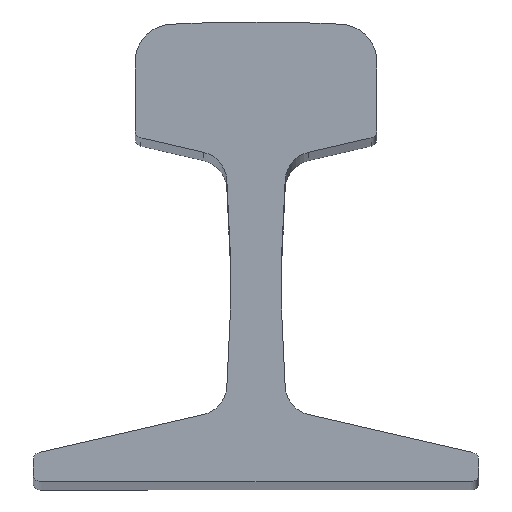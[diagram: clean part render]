
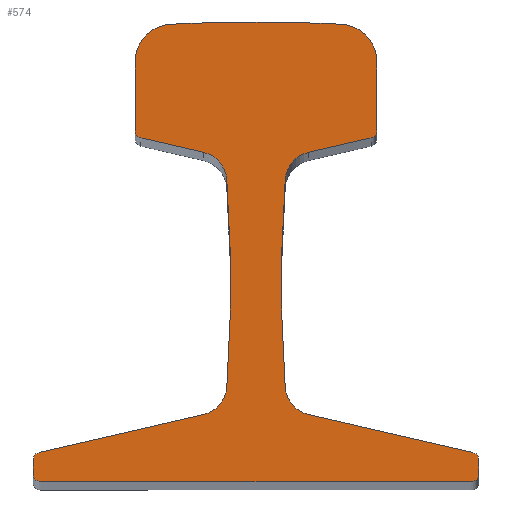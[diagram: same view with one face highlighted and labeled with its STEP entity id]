
A CAD part, top view. The second image highlights one B-rep face of the part: STEP entity #574.
In plain terms, the highlighted planar face has unit normal (0, 0, 1).
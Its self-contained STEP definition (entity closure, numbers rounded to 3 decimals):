
#23=PLANE($,#637);
#25=CIRCLE($,#584,1.59);
#27=CIRCLE($,#588,1.59);
#29=CIRCLE($,#592,6.35);
#31=CIRCLE($,#595,304.8);
#33=CIRCLE($,#598,6.35);
#35=CIRCLE($,#602,1.59);
#37=CIRCLE($,#606,7.94);
#46=CIRCLE($,#617,1.59);
#47=CIRCLE($,#620,1.59);
#48=CIRCLE($,#623,6.35);
#49=CIRCLE($,#625,304.8);
#50=CIRCLE($,#627,6.35);
#51=CIRCLE($,#630,1.59);
#52=CIRCLE($,#633,7.94);
#53=CIRCLE($,#635,304.8);
#58=LINE($,#1101,#100);
#62=LINE($,#1113,#104);
#68=LINE($,#1137,#110);
#72=LINE($,#1149,#114);
#81=LINE($,#1190,#123);
#84=LINE($,#1198,#126);
#89=LINE($,#1214,#131);
#92=LINE($,#1222,#134);
#95=LINE($,#1231,#137);
#100=VECTOR($,#660,3.004);
#104=VECTOR($,#672,35.459);
#110=VECTOR($,#698,13.466);
#114=VECTOR($,#710,14.407);
#123=VECTOR($,#749,3.004);
#126=VECTOR($,#758,35.459);
#131=VECTOR($,#777,13.466);
#134=VECTOR($,#786,14.407);
#137=VECTOR($,#799,90.48);
#179=FACE_OUTER_BOUND($,#221,.T.);
#221=EDGE_LOOP($,(#502,#503,#504,#505,#506,#507,#508,#509,#510,#511,#512,
#513,#514,#515,#516,#517,#518,#519,#520,#521,#522,#523,#524,#525));
#238=VERTEX_POINT($,#1088);
#241=VERTEX_POINT($,#1093);
#243=VERTEX_POINT($,#1099);
#245=VERTEX_POINT($,#1105);
#247=VERTEX_POINT($,#1111);
#249=VERTEX_POINT($,#1117);
#251=VERTEX_POINT($,#1123);
#253=VERTEX_POINT($,#1129);
#255=VERTEX_POINT($,#1135);
#257=VERTEX_POINT($,#1141);
#259=VERTEX_POINT($,#1147);
#261=VERTEX_POINT($,#1153);
#274=VERTEX_POINT($,#1183);
#275=VERTEX_POINT($,#1185);
#276=VERTEX_POINT($,#1189);
#277=VERTEX_POINT($,#1193);
#278=VERTEX_POINT($,#1197);
#279=VERTEX_POINT($,#1201);
#280=VERTEX_POINT($,#1205);
#281=VERTEX_POINT($,#1209);
#282=VERTEX_POINT($,#1213);
#283=VERTEX_POINT($,#1217);
#284=VERTEX_POINT($,#1221);
#285=VERTEX_POINT($,#1225);
#297=EDGE_CURVE($,#241,#238,#25,.T.);
#300=EDGE_CURVE($,#243,#241,#58,.T.);
#303=EDGE_CURVE($,#245,#243,#27,.T.);
#306=EDGE_CURVE($,#247,#245,#62,.T.);
#309=EDGE_CURVE($,#249,#247,#29,.T.);
#312=EDGE_CURVE($,#251,#249,#31,.T.);
#315=EDGE_CURVE($,#253,#251,#33,.T.);
#318=EDGE_CURVE($,#255,#253,#68,.T.);
#321=EDGE_CURVE($,#257,#255,#35,.T.);
#324=EDGE_CURVE($,#259,#257,#72,.T.);
#327=EDGE_CURVE($,#261,#259,#37,.T.);
#342=EDGE_CURVE($,#275,#274,#46,.T.);
#344=EDGE_CURVE($,#276,#275,#81,.T.);
#346=EDGE_CURVE($,#277,#276,#47,.T.);
#348=EDGE_CURVE($,#278,#277,#84,.T.);
#350=EDGE_CURVE($,#279,#278,#48,.T.);
#352=EDGE_CURVE($,#280,#279,#49,.T.);
#354=EDGE_CURVE($,#281,#280,#50,.T.);
#356=EDGE_CURVE($,#282,#281,#89,.T.);
#358=EDGE_CURVE($,#283,#282,#51,.T.);
#360=EDGE_CURVE($,#284,#283,#92,.T.);
#362=EDGE_CURVE($,#285,#284,#52,.T.);
#364=EDGE_CURVE($,#285,#261,#53,.T.);
#365=EDGE_CURVE($,#274,#238,#95,.T.);
#502=ORIENTED_EDGE($,*,*,#365,.T.);
#503=ORIENTED_EDGE($,*,*,#297,.F.);
#504=ORIENTED_EDGE($,*,*,#300,.F.);
#505=ORIENTED_EDGE($,*,*,#303,.F.);
#506=ORIENTED_EDGE($,*,*,#306,.F.);
#507=ORIENTED_EDGE($,*,*,#309,.F.);
#508=ORIENTED_EDGE($,*,*,#312,.F.);
#509=ORIENTED_EDGE($,*,*,#315,.F.);
#510=ORIENTED_EDGE($,*,*,#318,.F.);
#511=ORIENTED_EDGE($,*,*,#321,.F.);
#512=ORIENTED_EDGE($,*,*,#324,.F.);
#513=ORIENTED_EDGE($,*,*,#327,.F.);
#514=ORIENTED_EDGE($,*,*,#364,.F.);
#515=ORIENTED_EDGE($,*,*,#362,.T.);
#516=ORIENTED_EDGE($,*,*,#360,.T.);
#517=ORIENTED_EDGE($,*,*,#358,.T.);
#518=ORIENTED_EDGE($,*,*,#356,.T.);
#519=ORIENTED_EDGE($,*,*,#354,.T.);
#520=ORIENTED_EDGE($,*,*,#352,.T.);
#521=ORIENTED_EDGE($,*,*,#350,.T.);
#522=ORIENTED_EDGE($,*,*,#348,.T.);
#523=ORIENTED_EDGE($,*,*,#346,.T.);
#524=ORIENTED_EDGE($,*,*,#344,.T.);
#525=ORIENTED_EDGE($,*,*,#342,.T.);
#574=ADVANCED_FACE($,(#179),#23,.T.);
#584=AXIS2_PLACEMENT_3D($,#1095,#654,#655);
#588=AXIS2_PLACEMENT_3D($,#1107,#666,#667);
#592=AXIS2_PLACEMENT_3D($,#1119,#678,#679);
#595=AXIS2_PLACEMENT_3D($,#1125,#685,#686);
#598=AXIS2_PLACEMENT_3D($,#1131,#692,#693);
#602=AXIS2_PLACEMENT_3D($,#1143,#704,#705);
#606=AXIS2_PLACEMENT_3D($,#1155,#716,#717);
#617=AXIS2_PLACEMENT_3D($,#1186,#744,#745);
#620=AXIS2_PLACEMENT_3D($,#1194,#753,#754);
#623=AXIS2_PLACEMENT_3D($,#1202,#762,#763);
#625=AXIS2_PLACEMENT_3D($,#1206,#767,#768);
#627=AXIS2_PLACEMENT_3D($,#1210,#772,#773);
#630=AXIS2_PLACEMENT_3D($,#1218,#781,#782);
#633=AXIS2_PLACEMENT_3D($,#1226,#790,#791);
#635=AXIS2_PLACEMENT_3D($,#1229,#795,#796);
#637=AXIS2_PLACEMENT_3D($,#1232,#800,#801);
#654=DIRECTION('center_axis',(0.,0.,-1.));
#655=DIRECTION('ref_axis',(-1.,0.,0.));
#660=DIRECTION($,(0.,-1.,0.));
#666=DIRECTION('center_axis',(0.,0.,-1.));
#667=DIRECTION('ref_axis',(-0.225,-0.974,0.));
#672=DIRECTION($,(0.974,-0.225,0.));
#678=DIRECTION('center_axis',(0.,0.,1.));
#679=DIRECTION('ref_axis',(-0.225,-0.974,0.));
#685=DIRECTION('center_axis',(0.,0.,1.));
#686=DIRECTION('ref_axis',(-0.997,-0.072,0.));
#692=DIRECTION('center_axis',(0.,0.,1.));
#693=DIRECTION('ref_axis',(-0.997,0.072,0.));
#698=DIRECTION($,(-0.974,-0.225,0.));
#704=DIRECTION('center_axis',(0.,0.,-1.));
#705=DIRECTION('ref_axis',(-1.,0.,0.));
#710=DIRECTION($,(0.,-1.,0.));
#716=DIRECTION('center_axis',(0.,0.,-1.));
#717=DIRECTION('ref_axis',(-0.059,-0.998,0.));
#744=DIRECTION('center_axis',(0.,0.,1.));
#745=DIRECTION('ref_axis',(1.,0.,0.));
#749=DIRECTION($,(0.,-1.,0.));
#753=DIRECTION('center_axis',(0.,0.,1.));
#754=DIRECTION('ref_axis',(0.225,-0.974,0.));
#758=DIRECTION($,(-0.974,-0.225,0.));
#762=DIRECTION('center_axis',(0.,0.,-1.));
#763=DIRECTION('ref_axis',(0.225,-0.974,0.));
#767=DIRECTION('center_axis',(0.,0.,-1.));
#768=DIRECTION('ref_axis',(0.997,-0.072,0.));
#772=DIRECTION('center_axis',(0.,0.,-1.));
#773=DIRECTION('ref_axis',(0.997,0.072,0.));
#777=DIRECTION($,(0.974,-0.225,0.));
#781=DIRECTION('center_axis',(0.,0.,1.));
#782=DIRECTION('ref_axis',(1.,0.,0.));
#786=DIRECTION($,(0.,-1.,0.));
#790=DIRECTION('center_axis',(0.,0.,1.));
#791=DIRECTION('ref_axis',(0.059,-0.998,0.));
#795=DIRECTION('center_axis',(0.,0.,-1.));
#796=DIRECTION('ref_axis',(0.,-1.,0.));
#799=DIRECTION($,(1.,0.,0.));
#800=DIRECTION('center_axis',(0.,0.,1.));
#801=DIRECTION('ref_axis',(1.,0.,0.));
#1088=CARTESIAN_POINT('',(45.24,0.,500.));
#1093=CARTESIAN_POINT('',(46.83,1.59,500.));
#1095=CARTESIAN_POINT('Origin',(45.24,1.59,500.));
#1099=CARTESIAN_POINT('',(46.83,4.594,500.));
#1101=CARTESIAN_POINT($,(46.83,1.59,500.));
#1105=CARTESIAN_POINT('',(45.598,6.143,500.));
#1107=CARTESIAN_POINT('Origin',(45.24,4.594,500.));
#1111=CARTESIAN_POINT('',(11.047,14.12,500.));
#1113=CARTESIAN_POINT($,(45.598,6.143,500.));
#1117=CARTESIAN_POINT('',(6.142,19.852,500.));
#1119=CARTESIAN_POINT('Origin',(12.476,20.307,500.));
#1123=CARTESIAN_POINT('',(6.142,63.488,500.));
#1125=CARTESIAN_POINT('Origin',(310.16,41.67,500.));
#1129=CARTESIAN_POINT('',(11.047,69.22,500.));
#1131=CARTESIAN_POINT('Origin',(12.476,63.033,500.));
#1135=CARTESIAN_POINT('',(24.168,72.25,500.));
#1137=CARTESIAN_POINT($,(11.047,69.22,500.));
#1141=CARTESIAN_POINT('',(25.4,73.799,500.));
#1143=CARTESIAN_POINT('Origin',(23.81,73.799,500.));
#1147=CARTESIAN_POINT('',(25.4,88.206,500.));
#1149=CARTESIAN_POINT($,(25.4,73.799,500.));
#1153=CARTESIAN_POINT('',(17.927,96.132,500.));
#1155=CARTESIAN_POINT('Origin',(17.46,88.206,500.));
#1183=CARTESIAN_POINT('',(-45.24,0.,500.));
#1185=CARTESIAN_POINT('',(-46.83,1.59,500.));
#1186=CARTESIAN_POINT('Origin',(-45.24,1.59,500.));
#1189=CARTESIAN_POINT('',(-46.83,4.594,500.));
#1190=CARTESIAN_POINT($,(-46.83,1.59,500.));
#1193=CARTESIAN_POINT('',(-45.598,6.143,500.));
#1194=CARTESIAN_POINT('Origin',(-45.24,4.594,500.));
#1197=CARTESIAN_POINT('',(-11.047,14.12,500.));
#1198=CARTESIAN_POINT($,(-45.598,6.143,500.));
#1201=CARTESIAN_POINT('',(-6.142,19.852,500.));
#1202=CARTESIAN_POINT('Origin',(-12.476,20.307,500.));
#1205=CARTESIAN_POINT('',(-6.142,63.488,500.));
#1206=CARTESIAN_POINT('Origin',(-310.16,41.67,500.));
#1209=CARTESIAN_POINT('',(-11.047,69.22,500.));
#1210=CARTESIAN_POINT('Origin',(-12.476,63.033,500.));
#1213=CARTESIAN_POINT('',(-24.168,72.25,500.));
#1214=CARTESIAN_POINT($,(-11.047,69.22,500.));
#1217=CARTESIAN_POINT('',(-25.4,73.799,500.));
#1218=CARTESIAN_POINT('Origin',(-23.81,73.799,500.));
#1221=CARTESIAN_POINT('',(-25.4,88.206,500.));
#1222=CARTESIAN_POINT($,(-25.4,73.799,500.));
#1225=CARTESIAN_POINT('',(-17.927,96.132,500.));
#1226=CARTESIAN_POINT('Origin',(-17.46,88.206,500.));
#1229=CARTESIAN_POINT('Origin',(0.,-208.14,500.));
#1231=CARTESIAN_POINT($,(0.,0.,500.));
#1232=CARTESIAN_POINT('Origin',(-12.749,40.239,500.));
